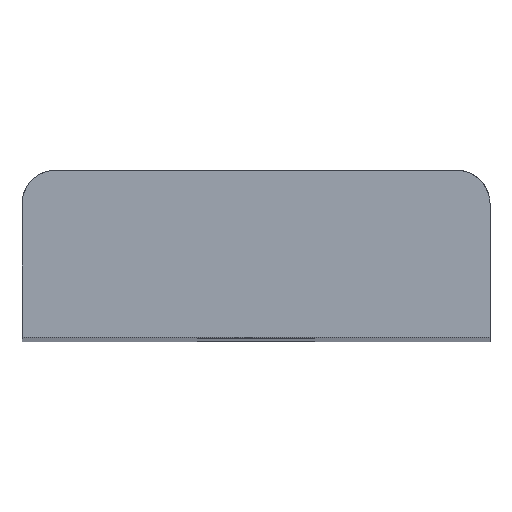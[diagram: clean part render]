
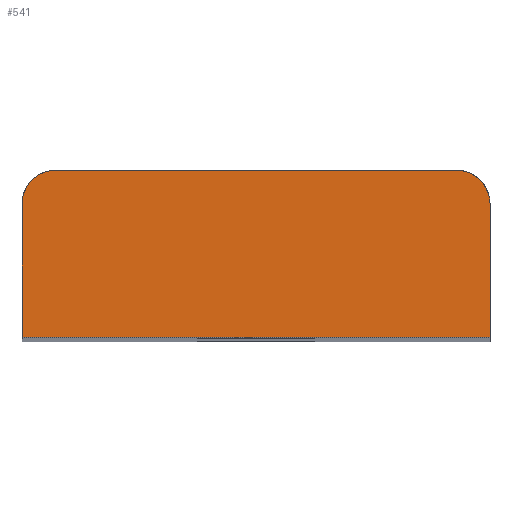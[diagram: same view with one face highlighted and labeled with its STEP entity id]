
A CAD part, top view. The second image highlights one B-rep face of the part: STEP entity #541.
In plain terms, the highlighted face is a extrusion surface.
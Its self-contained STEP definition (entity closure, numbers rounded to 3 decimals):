
#480=CARTESIAN_POINT('Control Point',(-14.,-5.,75.)) ;
#481=CARTESIAN_POINT('Control Point',(14.066,-5.,75.)) ;
#486=CARTESIAN_POINT('Control Point',(-12.,5.,75.)) ;
#487=CARTESIAN_POINT('Control Point',(-12.628,5.,75.)) ;
#488=CARTESIAN_POINT('Control Point',(-13.257,4.754,75.)) ;
#489=CARTESIAN_POINT('Control Point',(-13.754,4.257,75.)) ;
#490=CARTESIAN_POINT('Control Point',(-14.,3.628,75.)) ;
#491=CARTESIAN_POINT('Control Point',(-14.,3.,75.)) ;
#492=CARTESIAN_POINT('Vertex',(-12.,5.,75.)) ;
#494=CARTESIAN_POINT('Vertex',(-14.,3.,75.)) ;
#497=CARTESIAN_POINT('Line Origine',(-14.,0.,75.)) ;
#501=CARTESIAN_POINT('Vertex',(-14.,-5.,75.)) ;
#504=CARTESIAN_POINT('Line Origine',(0.,-5.,75.)) ;
#508=CARTESIAN_POINT('Vertex',(14.,-5.,75.)) ;
#511=CARTESIAN_POINT('Line Origine',(14.,0.,75.)) ;
#515=CARTESIAN_POINT('Vertex',(14.,3.,75.)) ;
#519=CARTESIAN_POINT('Control Point',(14.,3.,75.)) ;
#520=CARTESIAN_POINT('Control Point',(14.,3.628,75.)) ;
#521=CARTESIAN_POINT('Control Point',(13.754,4.257,75.)) ;
#522=CARTESIAN_POINT('Control Point',(13.257,4.754,75.)) ;
#523=CARTESIAN_POINT('Control Point',(12.628,5.,75.)) ;
#524=CARTESIAN_POINT('Control Point',(12.,5.,75.)) ;
#525=CARTESIAN_POINT('Vertex',(12.,5.,75.)) ;
#528=CARTESIAN_POINT('Line Origine',(0.,5.,75.)) ;
#482=DIRECTION('Vector Direction',(0.,1.,0.)) ;
#498=DIRECTION('Vector Direction',(0.,1.,0.)) ;
#505=DIRECTION('Vector Direction',(1.,0.,0.)) ;
#512=DIRECTION('Vector Direction',(0.,1.,0.)) ;
#529=DIRECTION('Vector Direction',(1.,0.,0.)) ;
#534=ORIENTED_EDGE('',*,*,#496,.T.) ;
#535=ORIENTED_EDGE('',*,*,#503,.T.) ;
#536=ORIENTED_EDGE('',*,*,#510,.T.) ;
#537=ORIENTED_EDGE('',*,*,#517,.T.) ;
#538=ORIENTED_EDGE('',*,*,#527,.T.) ;
#539=ORIENTED_EDGE('',*,*,#532,.T.) ;
#483=VECTOR('Extrusion Surface Vector',#482,1.) ;
#499=VECTOR('Line Direction',#498,1.) ;
#506=VECTOR('Line Direction',#505,1.) ;
#513=VECTOR('Line Direction',#512,1.) ;
#530=VECTOR('Line Direction',#529,1.) ;
#541=ADVANCED_FACE('Superficie.7',(#540),#484,.T.) ;
#479=B_SPLINE_CURVE_WITH_KNOTS('',1,(#480,#481),.UNSPECIFIED.,.F.,.U.,(2,2),(-14.,14.066),.UNSPECIFIED.) ;
#485=B_SPLINE_CURVE_WITH_KNOTS('',5,(#486,#487,#488,#489,#490,#491),.UNSPECIFIED.,.F.,.U.,(6,6),(0.,4.443),.UNSPECIFIED.) ;
#518=B_SPLINE_CURVE_WITH_KNOTS('',5,(#519,#520,#521,#522,#523,#524),.UNSPECIFIED.,.F.,.U.,(6,6),(0.,4.443),.UNSPECIFIED.) ;
#496=EDGE_CURVE('',#493,#495,#485,.T.) ;
#503=EDGE_CURVE('',#495,#502,#500,.F.) ;
#510=EDGE_CURVE('',#502,#509,#507,.T.) ;
#517=EDGE_CURVE('',#509,#516,#514,.T.) ;
#527=EDGE_CURVE('',#516,#526,#518,.T.) ;
#532=EDGE_CURVE('',#526,#493,#531,.F.) ;
#533=EDGE_LOOP('',(#534,#535,#536,#537,#538,#539)) ;
#540=FACE_OUTER_BOUND('',#533,.T.) ;
#500=LINE('Line',#497,#499) ;
#507=LINE('Line',#504,#506) ;
#514=LINE('Line',#511,#513) ;
#531=LINE('Line',#528,#530) ;
#484=SURFACE_OF_LINEAR_EXTRUSION('generated tabulated cylinder',#479,#483) ;
#493=VERTEX_POINT('',#492) ;
#495=VERTEX_POINT('',#494) ;
#502=VERTEX_POINT('',#501) ;
#509=VERTEX_POINT('',#508) ;
#516=VERTEX_POINT('',#515) ;
#526=VERTEX_POINT('',#525) ;
